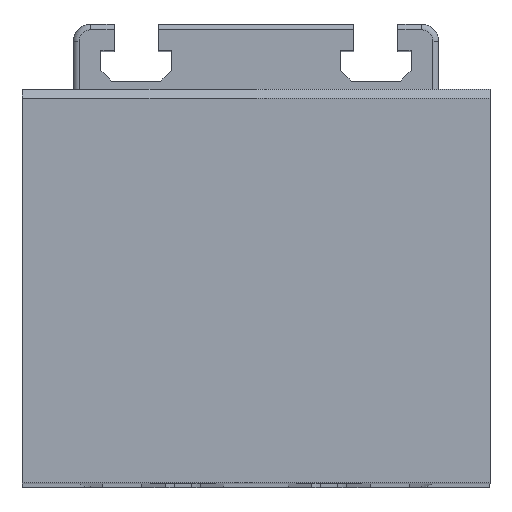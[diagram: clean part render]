
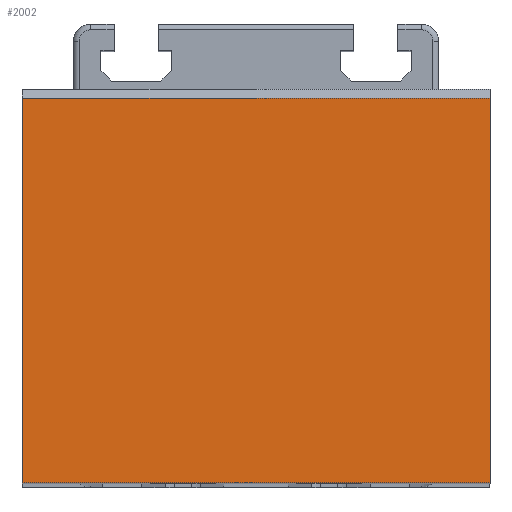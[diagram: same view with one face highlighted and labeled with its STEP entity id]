
A CAD part, top view. The second image highlights one B-rep face of the part: STEP entity #2002.
In plain terms, the highlighted planar face has unit normal (0, 0, 1).
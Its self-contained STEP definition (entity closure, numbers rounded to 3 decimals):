
#92 = LINE ( 'NONE', #2001, #2647 ) ;
#185 = DIRECTION ( 'NONE',  ( 0., -1., 0. ) ) ;
#594 = VERTEX_POINT ( 'NONE', #1021 ) ;
#684 = ORIENTED_EDGE ( 'NONE', *, *, #1570, .F. ) ;
#753 = CARTESIAN_POINT ( 'NONE',  ( 0., 0., 65. ) ) ;
#840 = DIRECTION ( 'NONE',  ( 0., -1., 0. ) ) ;
#1020 = DIRECTION ( 'NONE',  ( -1., 0., 0. ) ) ;
#1021 = CARTESIAN_POINT ( 'NONE',  ( 160., 131.5, 65. ) ) ;
#1570 = EDGE_CURVE ( 'NONE', #594, #1869, #7962, .T. ) ;
#1670 = CARTESIAN_POINT ( 'NONE',  ( 160., 67.25, 65. ) ) ;
#1869 = VERTEX_POINT ( 'NONE', #6091 ) ;
#2001 = CARTESIAN_POINT ( 'NONE',  ( 160., 131.5, 65. ) ) ;
#2002 = ADVANCED_FACE ( 'NONE', ( #7354 ), #2302, .F. ) ;
#2302 = PLANE ( 'NONE',  #2704 ) ;
#2334 = EDGE_CURVE ( 'NONE', #1869, #5884, #2392, .T. ) ;
#2392 = LINE ( 'NONE', #7551, #6619 ) ;
#2647 = VECTOR ( 'NONE', #3930, 1000. ) ;
#2704 = AXIS2_PLACEMENT_3D ( 'NONE', #1670, #6807, #1020 ) ;
#2757 = ORIENTED_EDGE ( 'NONE', *, *, #2334, .F. ) ;
#3398 = CARTESIAN_POINT ( 'NONE',  ( 160., 67.25, 65. ) ) ;
#3556 = CARTESIAN_POINT ( 'NONE',  ( 0., 131.5, 65. ) ) ;
#3930 = DIRECTION ( 'NONE',  ( -1., 0., 0. ) ) ;
#4041 = LINE ( 'NONE', #6620, #7128 ) ;
#4216 = EDGE_CURVE ( 'NONE', #594, #7719, #92, .T. ) ;
#4848 = DIRECTION ( 'NONE',  ( -1., 0., 0. ) ) ;
#5614 = ORIENTED_EDGE ( 'NONE', *, *, #4216, .T. ) ;
#5884 = VERTEX_POINT ( 'NONE', #753 ) ;
#6091 = CARTESIAN_POINT ( 'NONE',  ( 160., 0., 65. ) ) ;
#6619 = VECTOR ( 'NONE', #4848, 1000. ) ;
#6620 = CARTESIAN_POINT ( 'NONE',  ( 0., 67.25, 65. ) ) ;
#6741 = VECTOR ( 'NONE', #185, 1000. ) ;
#6807 = DIRECTION ( 'NONE',  ( 0., 0., -1. ) ) ;
#7128 = VECTOR ( 'NONE', #840, 1000. ) ;
#7221 = EDGE_CURVE ( 'NONE', #7719, #5884, #4041, .T. ) ;
#7354 = FACE_OUTER_BOUND ( 'NONE', #7685, .T. ) ;
#7427 = ORIENTED_EDGE ( 'NONE', *, *, #7221, .T. ) ;
#7551 = CARTESIAN_POINT ( 'NONE',  ( 160., 0., 65. ) ) ;
#7685 = EDGE_LOOP ( 'NONE', ( #684, #5614, #7427, #2757 ) ) ;
#7719 = VERTEX_POINT ( 'NONE', #3556 ) ;
#7962 = LINE ( 'NONE', #3398, #6741 ) ;
